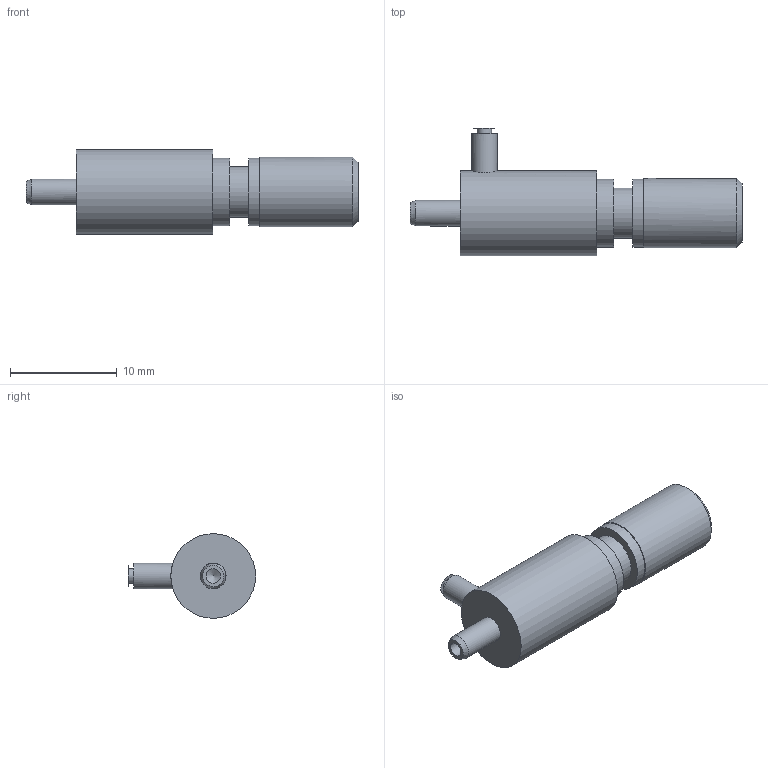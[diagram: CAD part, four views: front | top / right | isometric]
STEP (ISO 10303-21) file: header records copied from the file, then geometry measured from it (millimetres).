
FILE_DESCRIPTION(/* description */ ('SolidWorks IGES file using NURBS representation for surfaces '),/* implementation_level */ '2;1');
FILE_NAME(/* name */ 'K:\Normteile INVENTOR\Air-Logic\Needle Valves\F-2822-50-KSS.IGS.ipt.stp',/* time_stamp */ '2020-05-27T10:44:13+02:00',/* author */ ('amarsh'),/* organization */ (''),/* preprocessor_version */ 'ST-DEVELOPER v18',/* originating_system */ 'Autodesk Inventor 2020',/* authorisation */ '');
FILE_SCHEMA (('AUTOMOTIVE_DESIGN { 1 0 10303 214 3 1 1 }'));
Length unit declared in the file: millimetre
Products named in the file (1): F-2822-50-KSS.IGS
Bounding box: 31.05 x 11.89 x 7.92 mm (x, y, z)
Volume: 1065.4 mm3; surface area: 856.4 mm2
Topology: 2 solids, 2 shells, 23 faces, 63 edges, 49 vertices
Faces by surface type: cylinder 9, plane 9, cone 5
Full cylindrical faces by diameter (mm): 1.35 x2, 2.39 x2, 4.7 x1, 6.35 x2, 6.5 x1, 7.92 x1
Entity records: 860 total; most frequent: CARTESIAN_POINT 169, DIRECTION 152, ORIENTED_EDGE 122, AXIS2_PLACEMENT_3D 69, EDGE_CURVE 61, VERTEX_POINT 49, CIRCLE 45, EDGE_LOOP 30
